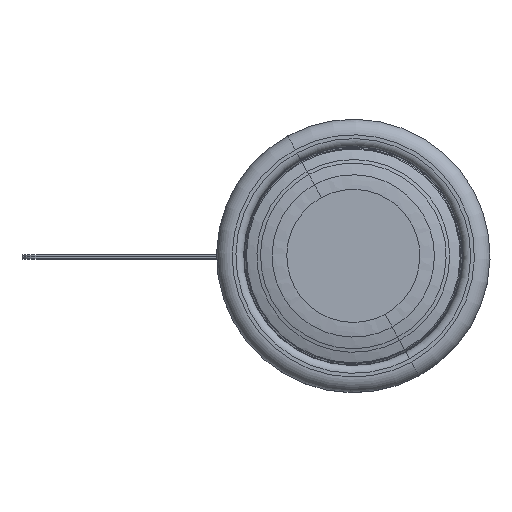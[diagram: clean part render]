
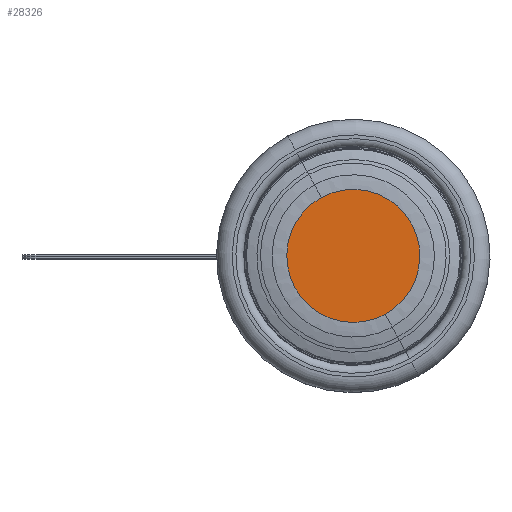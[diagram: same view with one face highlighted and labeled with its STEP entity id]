
A CAD part, top view. The second image highlights one B-rep face of the part: STEP entity #28326.
In plain terms, the highlighted planar face has unit normal (0, 0, 1).
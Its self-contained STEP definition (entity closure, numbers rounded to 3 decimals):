
#28283=AXIS2_PLACEMENT_3D('Circle Axis2P3D',#28281,#28282,$) ;
#28307=AXIS2_PLACEMENT_3D('Circle Axis2P3D',#28305,#28306,$) ;
#28320=AXIS2_PLACEMENT_3D('Plane Axis2P3D',#28317,#28318,#28319) ;
#28278=CARTESIAN_POINT('Vertex',(4.082,-7.472,7.09)) ;
#28281=CARTESIAN_POINT('Axis2P3D Location',(0.,0.,7.09)) ;
#28285=CARTESIAN_POINT('Vertex',(-4.082,7.472,7.09)) ;
#28305=CARTESIAN_POINT('Axis2P3D Location',(0.,0.,7.09)) ;
#28317=CARTESIAN_POINT('Axis2P3D Location',(0.,0.,7.09)) ;
#28282=DIRECTION('Axis2P3D Direction',(0.,-0.,1.)) ;
#28306=DIRECTION('Axis2P3D Direction',(0.,0.,1.)) ;
#28318=DIRECTION('Axis2P3D Direction',(0.,-0.,1.)) ;
#28319=DIRECTION('Axis2P3D XDirection',(0.,1.,0.)) ;
#28323=ORIENTED_EDGE('',*,*,#28287,.F.) ;
#28324=ORIENTED_EDGE('',*,*,#28309,.F.) ;
#28326=ADVANCED_FACE('10001113154_D10_001.1\\PartBody ( *SOL96 - wsp *MASTER -  )',(#28325),#28321,.T.) ;
#28284=CIRCLE('generated circle',#28283,8.515) ;
#28308=CIRCLE('generated circle',#28307,8.515) ;
#28287=EDGE_CURVE('',#28279,#28286,#28284,.F.) ;
#28309=EDGE_CURVE('',#28286,#28279,#28308,.F.) ;
#28322=EDGE_LOOP('',(#28323,#28324)) ;
#28325=FACE_OUTER_BOUND('',#28322,.T.) ;
#28321=PLANE('',#28320) ;
#28279=VERTEX_POINT('',#28278) ;
#28286=VERTEX_POINT('',#28285) ;
